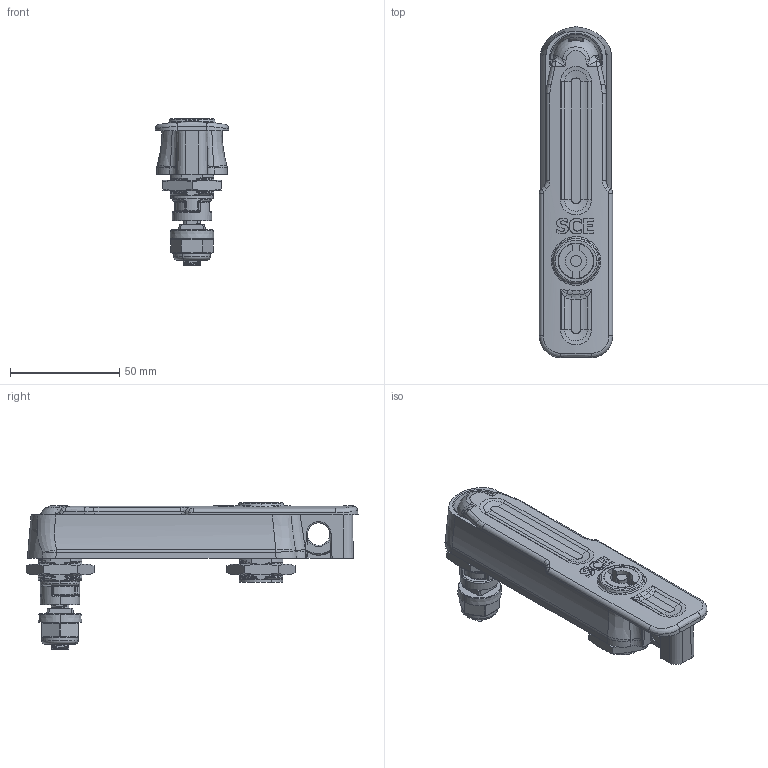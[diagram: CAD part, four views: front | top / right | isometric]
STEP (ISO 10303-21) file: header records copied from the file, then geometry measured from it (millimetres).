
FILE_DESCRIPTION((''),'2;1');
FILE_NAME('SCE-FSH5DB_ASM','2024-01-17T13:01:40',('chads'),('SAGINAW CONTROL & ENGINEERING'),'CREO PARAMETRIC BY PTC INC, 2021284','CREO PARAMETRIC BY PTC INC, 2021284','');
FILE_SCHEMA(('AUTOMOTIVE_DESIGN { 1 0 10303 214 1 1 1 1 }'));
Length unit declared in the file: millimetre
Products named in the file (18): 129334-HANDLE-STOP; 129334-HANDLE-BASE; 129334-INSERT-SPRING; 129334-HANDLE-PIN; 129334-HANDLE-SHAFT; 129334-HANDLE-LOCK-SCREW; 129334-HANDLE; 129334-HANDLE-LOCK; 129334-HANDLE-SHAFT-O-RING; 129334-HANDLE_ASM; 129334-LOCK-NUT; 129334-BASE-CAP; 129334-CAM-ADAPTER; 129334-NUT; 129334_ASM; 129534; 110047; SCE-FSH5DB_ASM
Assembly tree (18 placements, depth 4):
  SCE-FSH5DB_ASM
    129334_ASM
      129334-HANDLE-STOP
      129334-HANDLE-BASE
      129334-HANDLE_ASM
        129334-INSERT-SPRING
        129334-HANDLE-PIN
        129334-HANDLE-SHAFT
        129334-HANDLE-LOCK-SCREW
        129334-HANDLE
        129334-HANDLE-LOCK
        129334-HANDLE-SHAFT-O-RING
      129334-LOCK-NUT
      129334-BASE-CAP
      129334-CAM-ADAPTER
      129334-NUT  x2
    129534
    110047
Bounding box: 33.56 x 152.09 x 67.33 mm (x, y, z)
Volume: 77302.3 mm3; surface area: 53057.4 mm2
Topology: 15 solids, 15 shells, 2003 faces, 5122 edges, 3053 vertices
Faces by surface type: cylinder 639, bspline 511, plane 382, cone 190, torus 179, sphere 99, extrusion 3
Entity records: 136956 total; most frequent: CARTESIAN_POINT 64840, ORIENTED_EDGE 9858, DIRECTION 7773, PRESENTATION_STYLE_ASSIGNMENT 6621, STYLED_ITEM 6621, EDGE_CURVE 4929, CURVE_STYLE 4745, AXIS2_PLACEMENT_3D 3089
